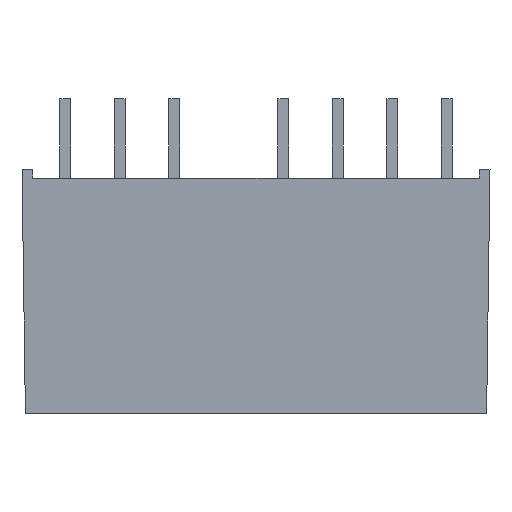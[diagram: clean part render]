
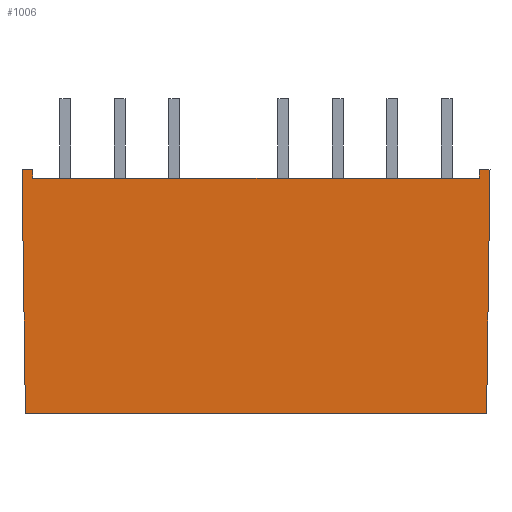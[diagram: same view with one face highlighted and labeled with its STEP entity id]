
A CAD part, front view. The second image highlights one B-rep face of the part: STEP entity #1006.
In plain terms, the highlighted planar face has unit normal (0, -1, -0.014).
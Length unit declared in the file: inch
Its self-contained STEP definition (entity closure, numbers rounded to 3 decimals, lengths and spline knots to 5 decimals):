
#11 = CARTESIAN_POINT ( 'NONE',  ( 0.42913, -0.18307, 0.44685 ) ) ;
#21 = DIRECTION ( 'NONE',  ( 1., 0., 0. ) ) ;
#28 = AXIS2_PLACEMENT_3D ( 'NONE', #547, #648, #1256 ) ;
#39 = CARTESIAN_POINT ( 'NONE',  ( 0., -0.17683, 0. ) ) ;
#50 = CARTESIAN_POINT ( 'NONE',  ( 0.40945, -0.18307, 0.44685 ) ) ;
#54 = CARTESIAN_POINT ( 'NONE',  ( -0.42913, -0.18307, 0.44685 ) ) ;
#60 = VERTEX_POINT ( 'NONE', #947 ) ;
#79 = EDGE_CURVE ( 'NONE', #862, #1017, #748, .T. ) ;
#121 = PLANE ( 'NONE',  #28 ) ;
#127 = VECTOR ( 'NONE', #154, 39.37008 ) ;
#144 = EDGE_CURVE ( 'NONE', #1328, #461, #952, .T. ) ;
#154 = DIRECTION ( 'NONE',  ( -1., 0., 0. ) ) ;
#164 = CARTESIAN_POINT ( 'NONE',  ( -0.42289, -0.17683, 0. ) ) ;
#169 = CARTESIAN_POINT ( 'NONE',  ( -0.40923, -0.18285, 0.4311 ) ) ;
#178 = CARTESIAN_POINT ( 'NONE',  ( -0.42289, -0.17683, 0. ) ) ;
#183 = CARTESIAN_POINT ( 'NONE',  ( -0.40923, -0.18285, 0.4311 ) ) ;
#210 = LINE ( 'NONE', #651, #734 ) ;
#267 = VECTOR ( 'NONE', #281, 39.37008 ) ;
#281 = DIRECTION ( 'NONE',  ( -0.014, -0.014, 1. ) ) ;
#325 = EDGE_CURVE ( 'NONE', #344, #1017, #720, .T. ) ;
#340 = DIRECTION ( 'NONE',  ( -0.014, 0.014, -1. ) ) ;
#344 = VERTEX_POINT ( 'NONE', #1177 ) ;
#360 = FACE_OUTER_BOUND ( 'NONE', #1059, .T. ) ;
#369 = ORIENTED_EDGE ( 'NONE', *, *, #144, .T. ) ;
#392 = ORIENTED_EDGE ( 'NONE', *, *, #518, .T. ) ;
#411 = ORIENTED_EDGE ( 'NONE', *, *, #79, .F. ) ;
#444 = VECTOR ( 'NONE', #570, 39.37008 ) ;
#445 = DIRECTION ( 'NONE',  ( -1., 0., 0. ) ) ;
#449 = CARTESIAN_POINT ( 'NONE',  ( 0.42289, -0.17683, 0. ) ) ;
#461 = VERTEX_POINT ( 'NONE', #449 ) ;
#484 = VECTOR ( 'NONE', #445, 39.37008 ) ;
#493 = EDGE_CURVE ( 'NONE', #60, #879, #516, .T. ) ;
#507 = EDGE_CURVE ( 'NONE', #639, #461, #210, .T. ) ;
#516 = LINE ( 'NONE', #655, #484 ) ;
#518 = EDGE_CURVE ( 'NONE', #639, #344, #697, .T. ) ;
#547 = CARTESIAN_POINT ( 'NONE',  ( 0.42913, -0.17683, 0.00004 ) ) ;
#570 = DIRECTION ( 'NONE',  ( 1., 0., 0. ) ) ;
#587 = DIRECTION ( 'NONE',  ( -0.014, 0.014, -1. ) ) ;
#616 = CARTESIAN_POINT ( 'NONE',  ( 0.42913, -0.18307, 0.44685 ) ) ;
#639 = VERTEX_POINT ( 'NONE', #616 ) ;
#640 = CARTESIAN_POINT ( 'NONE',  ( 0.40923, -0.18285, 0.4311 ) ) ;
#648 = DIRECTION ( 'NONE',  ( 0., -1., -0.014 ) ) ;
#651 = CARTESIAN_POINT ( 'NONE',  ( 0.42913, -0.18307, 0.44685 ) ) ;
#655 = CARTESIAN_POINT ( 'NONE',  ( 0.42913, -0.18307, 0.44685 ) ) ;
#657 = CARTESIAN_POINT ( 'NONE',  ( 0., -0.18285, 0.4311 ) ) ;
#697 = LINE ( 'NONE', #11, #127 ) ;
#707 = DIRECTION ( 'NONE',  ( -0.014, -0.014, 1. ) ) ;
#720 = LINE ( 'NONE', #50, #1216 ) ;
#734 = VECTOR ( 'NONE', #340, 39.37008 ) ;
#748 = LINE ( 'NONE', #657, #1280 ) ;
#753 = EDGE_CURVE ( 'NONE', #862, #60, #970, .T. ) ;
#828 = ORIENTED_EDGE ( 'NONE', *, *, #493, .T. ) ;
#862 = VERTEX_POINT ( 'NONE', #169 ) ;
#879 = VERTEX_POINT ( 'NONE', #54 ) ;
#947 = CARTESIAN_POINT ( 'NONE',  ( -0.40945, -0.18307, 0.44685 ) ) ;
#952 = LINE ( 'NONE', #39, #444 ) ;
#970 = LINE ( 'NONE', #183, #1215 ) ;
#1006 = ADVANCED_FACE ( 'NONE', ( #360 ), #121, .T. ) ;
#1017 = VERTEX_POINT ( 'NONE', #640 ) ;
#1044 = ORIENTED_EDGE ( 'NONE', *, *, #1066, .F. ) ;
#1059 = EDGE_LOOP ( 'NONE', ( #1230, #411, #1065, #828, #1044, #369, #1249, #392 ) ) ;
#1065 = ORIENTED_EDGE ( 'NONE', *, *, #753, .T. ) ;
#1066 = EDGE_CURVE ( 'NONE', #1328, #879, #1077, .T. ) ;
#1077 = LINE ( 'NONE', #178, #267 ) ;
#1177 = CARTESIAN_POINT ( 'NONE',  ( 0.40945, -0.18307, 0.44685 ) ) ;
#1215 = VECTOR ( 'NONE', #707, 39.37008 ) ;
#1216 = VECTOR ( 'NONE', #587, 39.37008 ) ;
#1230 = ORIENTED_EDGE ( 'NONE', *, *, #325, .T. ) ;
#1249 = ORIENTED_EDGE ( 'NONE', *, *, #507, .F. ) ;
#1256 = DIRECTION ( 'NONE',  ( 0., 0.014, -1. ) ) ;
#1280 = VECTOR ( 'NONE', #21, 39.37008 ) ;
#1328 = VERTEX_POINT ( 'NONE', #164 ) ;
